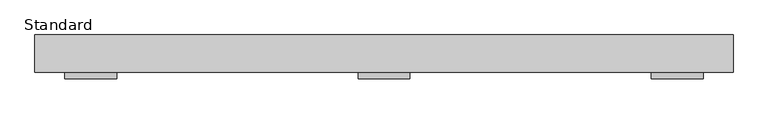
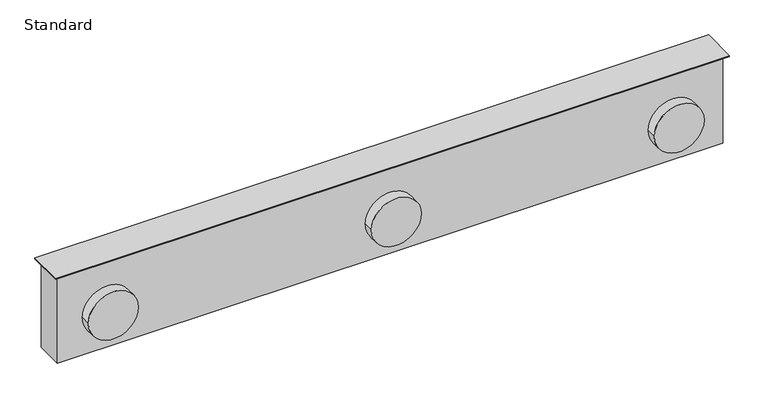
"""IFC4 building model written with IfcOpenShell, lengths in millimetres: air terminal geometry, M_Return Diffuser with Plenum - Linear Slot - Hosted MODIFIED : Standard."""

from ifc_helpers import new_model, si_unit, point, frame, frame_2d, origin, origin_with_axes, place, context, project, spatial, polyline, circle_curve, trimmed, segment, composite_curve, outline, extrude, source, transform, mapped, element, save


def standard_549b6772(model_context):
    return source(origin(), model_context, "Body", "SweptSolid", [
        extrude(outline(composite_curve([segment(trimmed(circle_curve(frame_2d((-159.95, -850.5)), 75.0), [point((-159.95, -925.5))], [point((-159.95, -775.5))], False, "CARTESIAN"), True, "CONTINUOUS"), segment(trimmed(circle_curve(frame_2d((-159.95, -850.5)), 75.0), [point((-159.95, -775.5))], [point((-159.95, -925.5))], False, "CARTESIAN"), True, "CONTINUOUS")], self_intersect=False)), frame((0.0, -73.5, 0.0), z_axis=(0.0, 1.0, 0.0), x_axis=(0.0, 0.0, 1.0)), (0.0, 0.0, 1.0), 32.0),
        extrude(outline(composite_curve([segment(trimmed(circle_curve(frame_2d((-159.95, 850.5)), 75.0), [point((-159.95, 775.5))], [point((-159.95, 925.5))], False, "CARTESIAN"), True, "CONTINUOUS"), segment(trimmed(circle_curve(frame_2d((-159.95, 850.5)), 75.0), [point((-159.95, 925.5))], [point((-159.95, 775.5))], False, "CARTESIAN"), True, "CONTINUOUS")], self_intersect=False)), frame((0.0, -73.5, 0.0), z_axis=(0.0, 1.0, 0.0), x_axis=(0.0, 0.0, 1.0)), (0.0, 0.0, 1.0), 32.0),
        extrude(outline(composite_curve([segment(trimmed(circle_curve(frame_2d((-159.95, 0.0)), 75.0), [point((-159.95, -75.0))], [point((-159.95, 75.0))], False, "CARTESIAN"), True, "CONTINUOUS"), segment(trimmed(circle_curve(frame_2d((-159.95, 0.0)), 75.0), [point((-159.95, 75.0))], [point((-159.95, -75.0))], False, "CARTESIAN"), True, "CONTINUOUS")], self_intersect=False)), frame((0.0, -73.5, 0.0), z_axis=(0.0, 1.0, 0.0), x_axis=(0.0, 0.0, 1.0)), (0.0, 0.0, 1.0), 32.0),
        extrude(outline(polyline([(1012.5, 54.0), (1012.5, -54.0), (-1012.5, -54.0), (-1012.5, 54.0), (1012.5, 54.0)])), origin_with_axes(), (0.0, 0.0, 1.0), 3.175),
        extrude(outline(polyline([(1000.0, 41.5), (1000.0, -41.5), (-1000.0, -41.5), (-1000.0, 41.5), (1000.0, 41.5)])), frame((0.0, 0.0, -279.4), z_axis=(0.0, 0.0, 1.0), x_axis=(1.0, 0.0, 0.0)), (0.0, 0.0, 1.0), 279.4),
    ])


if __name__ == "__main__":
    model = new_model("IFC4")
    model_context = context("Model", 3, world=origin())
    ifc_project = project(units=[si_unit("LENGTHUNIT", "METRE", prefix="MILLI")], contexts=[model_context])
    site = spatial("IfcSite", under=ifc_project)
    building = spatial("IfcBuilding", under=site)
    placement = place(None, origin())
    standard_shape = standard_549b6772(model_context)
    element("IfcAirTerminal", 1, ObjectType="M_Return Diffuser with Plenum - Linear Slot - Hosted MODIFIED : Standard", at=placement, inside=building, context=model_context, shape_type="MappedRepresentation", body=[
        mapped(standard_shape, transform((0.0, 0.0, 0.0), x_axis=(1.0, 0.0, 0.0), y_axis=(0.0, 1.0, 0.0), z_axis=(0.0, 0.0, 1.0))),
    ])
    save(model, "model.ifc")
